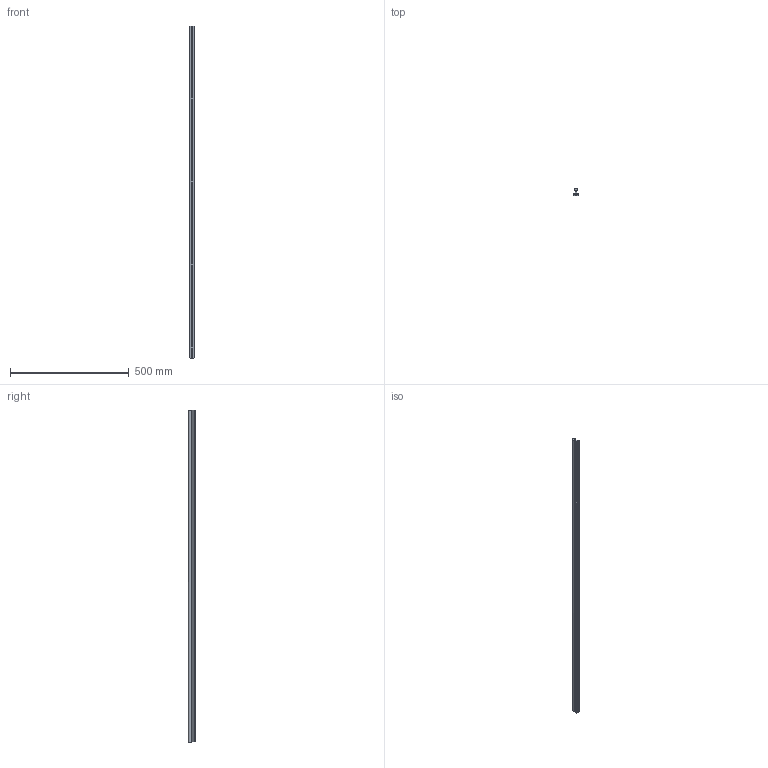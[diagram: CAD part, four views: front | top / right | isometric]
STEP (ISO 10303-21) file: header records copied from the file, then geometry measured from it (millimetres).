
FILE_DESCRIPTION (( 'STEP AP203' ), '1' );
FILE_NAME ('LFS-12-11_-_LFS-12-11 L=1398 - ArtNr 220002 1398.step', '2015-05-04T10:55:45', ( '' ), ( '' ), 'SwSTEP 2.0', 'SolidWorks 2014', '' );
FILE_SCHEMA (( 'CONFIG_CONTROL_DESIGN' ));
Length unit declared in the file: millimetre
Products named in the file (1): LFS-12-11_-_LFS-12-11 L=1398 - ArtNr 220002 1398
Bounding box: 20 x 31 x 1400 mm (x, y, z)
Volume: 423025.4 mm3; surface area: 189323.5 mm2
Topology: 1 solids, 1 shells, 970 faces, 2600 edges, 1658 vertices
Faces by surface type: cylinder 463, plane 451, cone 28, torus 28
Full cylindrical faces by diameter (mm): 7 x28, 8 x28, 12 x1
Entity records: 31116 total; most frequent: CARTESIAN_POINT 9258, ORIENTED_EDGE 4860, DIRECTION 3957, EDGE_CURVE 2430, VERTEX_POINT 1601, AXIS2_PLACEMENT_3D 1340, VECTOR 1277, LINE 1277
